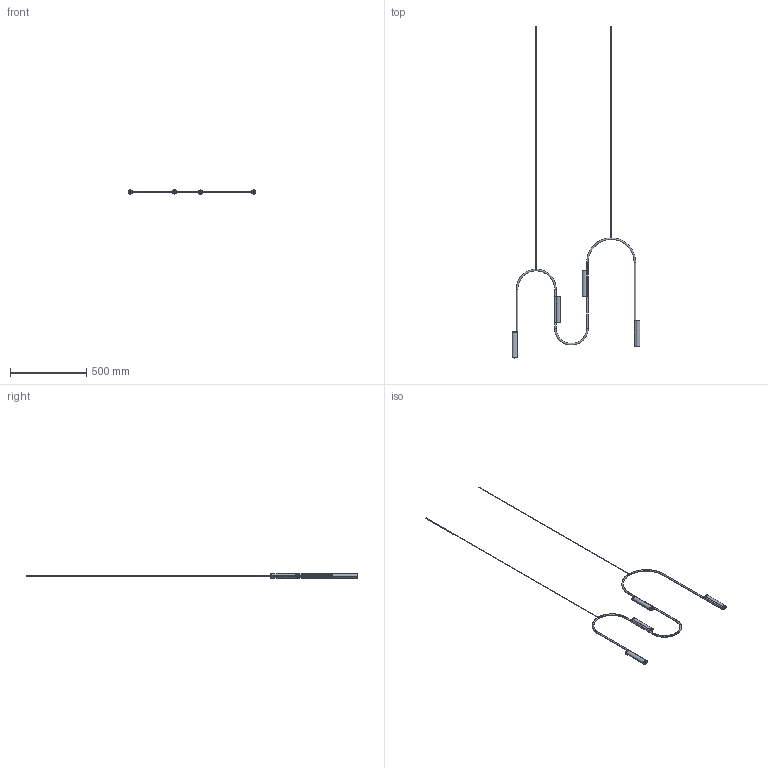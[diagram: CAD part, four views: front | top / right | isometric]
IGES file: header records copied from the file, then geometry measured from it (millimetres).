
Start section: SolidWorks IGES file using analytic representation for surfaces
Global section: file name: C:\Users\Joandita\Dropbox\Rakumba Industrial Design\PRODUCT\2 DEVELOPMENT\POP\CAD\LightWeight CAD\Pop - Pendant C.IGS; native system: SolidWorks 2017; preprocessor: SolidWorks 2017; author: Joandita; date: 240408.160750; units: millimetre
Bounding box: 835.98 x 2170.46 x 29.1 mm (x, y, z)
Surface area: 345189.7 mm2 (no closed solid volume)
Topology: 0 solids, 0 shells, 406 faces, 5986 edges, 5986 vertices
Faces by surface type: bspline 212, revolution 194
